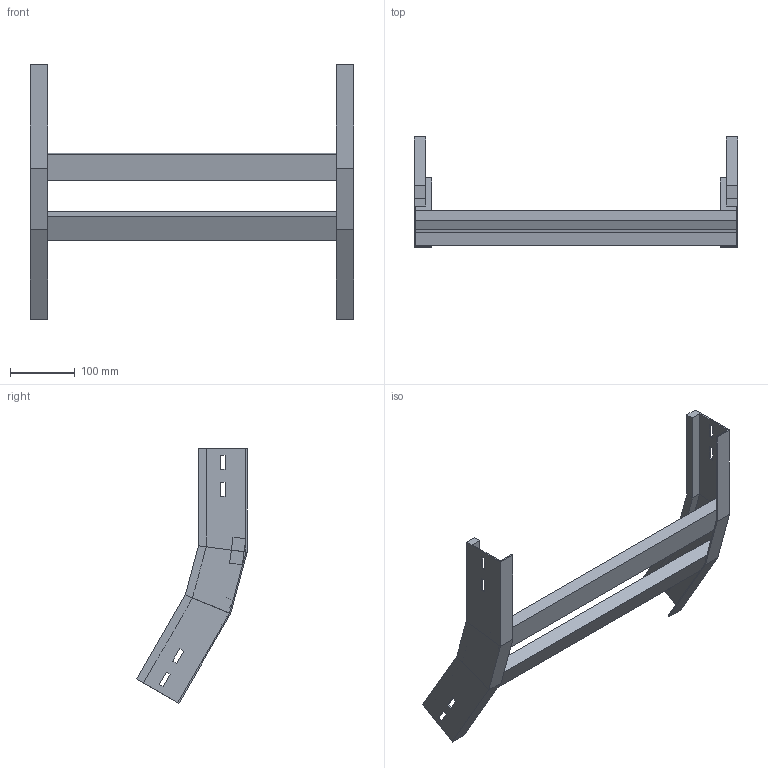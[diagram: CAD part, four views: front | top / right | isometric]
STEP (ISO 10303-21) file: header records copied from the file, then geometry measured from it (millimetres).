
FILE_DESCRIPTION (( 'STEP AP214' ), '1' );
FILE_NAME ('A2X32B3C500XX.step', '2025-03-20T10:01:35', ( '' ), ( '' ), 'SwSTEP 2.0', 'SolidWorks 2023', '' );
FILE_SCHEMA (( 'AUTOMOTIVE_DESIGN' ));
Length unit declared in the file: millimetre
Products named in the file (3): TRAVERSINO_500; LONGH.SALITA_30°_H75_R300; A2X32B3C500XX
Assembly tree (4 placements, depth 2):
  A2X32B3C500XX
    LONGH.SALITA_30°_H75_R300  x2
    TRAVERSINO_500  x2
Bounding box: 500 x 170.24 x 392.95 mm (x, y, z)
Volume: 1108602.7 mm3; surface area: 311997.9 mm2
Topology: 4 solids, 4 shells, 96 faces, 232 edges, 144 vertices
Faces by surface type: plane 96
Entity records: 1472 total; most frequent: CARTESIAN_POINT 243, ORIENTED_EDGE 232, DIRECTION 226, EDGE_CURVE 116, LINE 116, VECTOR 116, VERTEX_POINT 72, EDGE_LOOP 56
